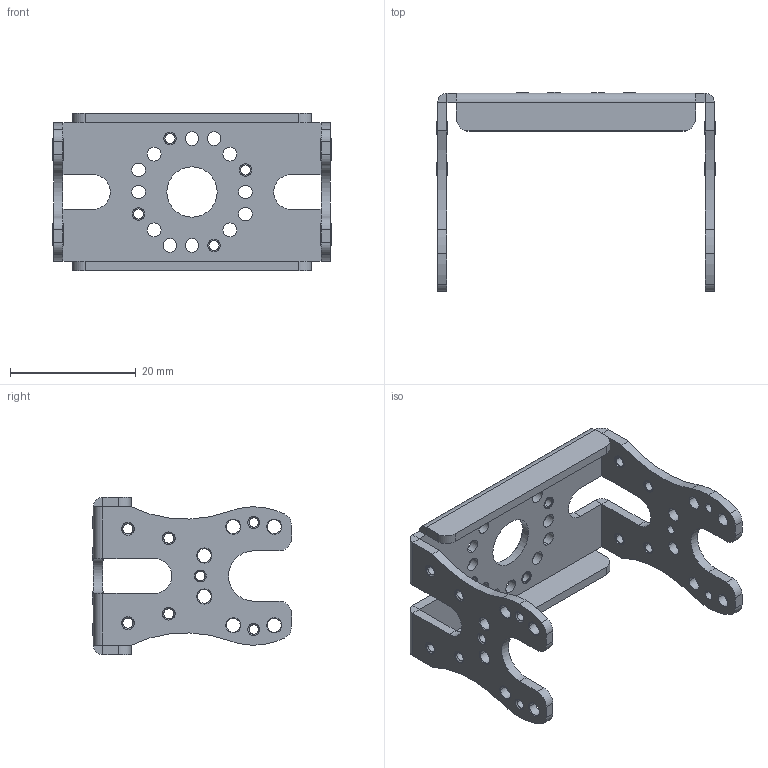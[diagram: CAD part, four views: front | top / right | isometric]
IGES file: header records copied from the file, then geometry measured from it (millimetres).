
Start section:  PTC IGES file: dc07_00a_adaptor_hinge.igs
Global section: file name: dc07_00a_adaptor_hinge.igs; native system: Pro/ENGINEER by Parametric Technology Corporation; preprocessor: 2006170; author: bono; organization: Unknown; date: 20061227.120002; units: millimetre
Bounding box: 44.28 x 31.64 x 25 mm (x, y, z)
Surface area: 5735.7 mm2 (no closed solid volume)
Topology: 0 solids, 0 shells, 308 faces, 2024 edges, 2288 vertices
Faces by surface type: revolution 256, bspline 52
